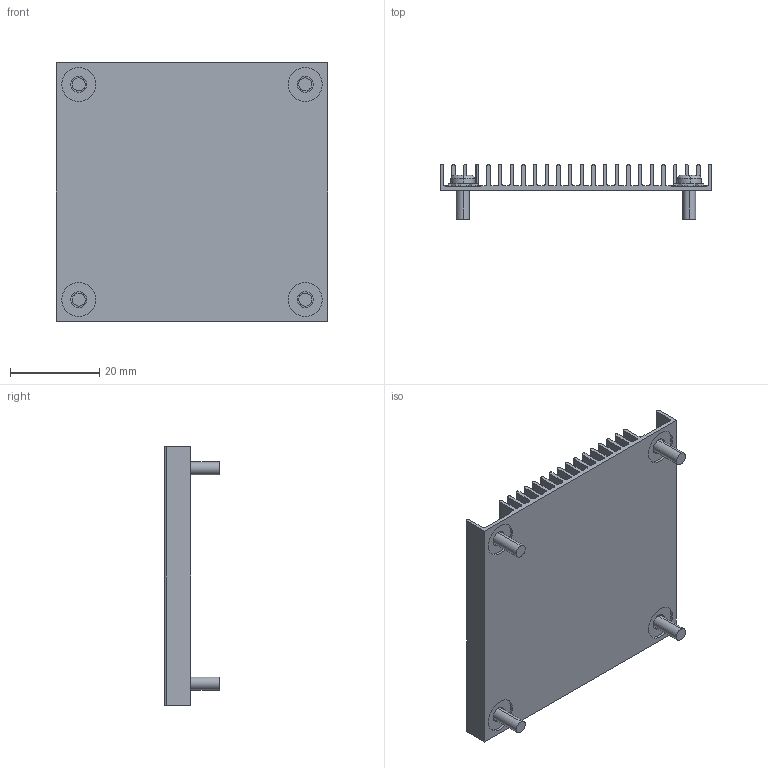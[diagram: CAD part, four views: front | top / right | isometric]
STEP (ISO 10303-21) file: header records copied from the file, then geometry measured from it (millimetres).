
FILE_DESCRIPTION (( 'STEP AP214' ), '1' );
FILE_NAME ('HS1579EBK08.STEP', '2023-03-03T19:01:16', ( '' ), ( '' ), 'SwSTEP 2.0', 'SolidWorks 2020', '' );
FILE_SCHEMA (( 'AUTOMOTIVE_DESIGN' ));
Length unit declared in the file: millimetre
Products named in the file (1): HS1579EBK08
Bounding box: 60.96 x 12.32 x 57.91 mm (x, y, z)
Volume: 8562.8 mm3; surface area: 19763.1 mm2
Topology: 5 solids, 5 shells, 572 faces, 1514 edges, 964 vertices
Faces by surface type: plane 398, cylinder 166, torus 8
Entity records: 24096 total; most frequent: CARTESIAN_POINT 3247, DIRECTION 3048, ORIENTED_EDGE 3028, EDGE_CURVE 1514, VECTOR 1094, LINE 1094, AXIS2_PLACEMENT_3D 977, VERTEX_POINT 964
